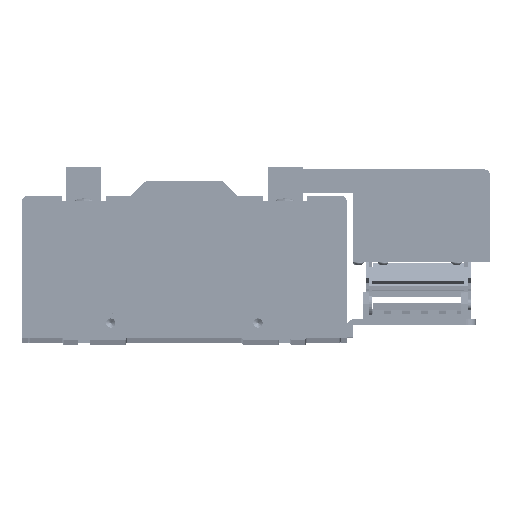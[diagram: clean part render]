
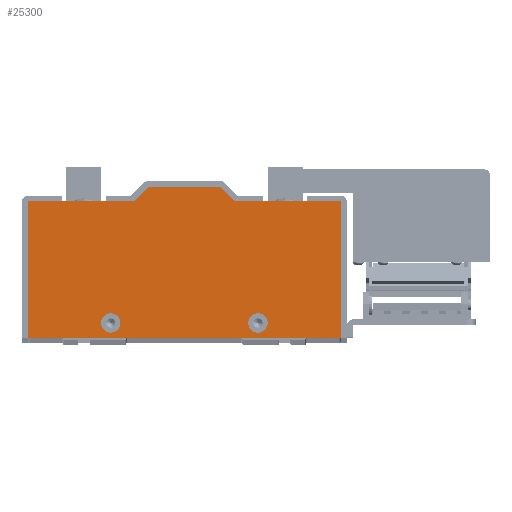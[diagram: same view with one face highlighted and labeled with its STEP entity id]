
A CAD part, top view. The second image highlights one B-rep face of the part: STEP entity #25300.
In plain terms, the highlighted planar face has unit normal (0, 0, 1).
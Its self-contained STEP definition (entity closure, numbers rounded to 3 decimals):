
#15987 = EDGE_CURVE ( 'NONE', #54596, #16159, #90911, .T. ) ;
#16082 = VERTEX_POINT ( 'NONE', #91301 ) ;
#16159 = VERTEX_POINT ( 'NONE', #91566 ) ;
#16417 = EDGE_CURVE ( 'NONE', #18543, #16082, #92491, .T. ) ;
#17618 = EDGE_CURVE ( 'NONE', #16159, #18543, #95688, .T. ) ;
#18543 = VERTEX_POINT ( 'NONE', #97898 ) ;
#19229 = VERTEX_POINT ( 'NONE', #99140 ) ;
#19261 = EDGE_CURVE ( 'NONE', #16082, #19229, #99220, .T. ) ;
#20837 = EDGE_CURVE ( 'NONE', #19229, #53826, #103105, .T. ) ;
#23149 = ORIENTED_EDGE ( 'NONE', *, *, #51070, .F. ) ;
#23201 = EDGE_LOOP ( 'NONE', ( #23259, #26092, #26017, #26116, #26002, #26042, #26133, #26138 ) ) ;
#23259 = ORIENTED_EDGE ( 'NONE', *, *, #53821, .T. ) ;
#23973 = ORIENTED_EDGE ( 'NONE', *, *, #23974, .F. ) ;
#23974 = EDGE_CURVE ( 'NONE', #51066, #52784, #108271, .T. ) ;
#24049 = EDGE_LOOP ( 'NONE', ( #23973, #23149 ) ) ;
#24626 = ORIENTED_EDGE ( 'NONE', *, *, #24702, .F. ) ;
#24702 = EDGE_CURVE ( 'NONE', #27278, #48706, #108516, .T. ) ;
#24726 = ORIENTED_EDGE ( 'NONE', *, *, #28069, .F. ) ;
#25230 = EDGE_LOOP ( 'NONE', ( #24626, #24726 ) ) ;
#25300 = ADVANCED_FACE ( 'NONE', ( #108956, #108947, #108945 ), #108943, .T. ) ;
#26002 = ORIENTED_EDGE ( 'NONE', *, *, #17618, .T. ) ;
#26017 = ORIENTED_EDGE ( 'NONE', *, *, #54992, .T. ) ;
#26042 = ORIENTED_EDGE ( 'NONE', *, *, #16417, .T. ) ;
#26092 = ORIENTED_EDGE ( 'NONE', *, *, #54718, .T. ) ;
#26116 = ORIENTED_EDGE ( 'NONE', *, *, #15987, .T. ) ;
#26133 = ORIENTED_EDGE ( 'NONE', *, *, #19261, .T. ) ;
#26138 = ORIENTED_EDGE ( 'NONE', *, *, #20837, .T. ) ;
#27278 = VERTEX_POINT ( 'NONE', #109838 ) ;
#28069 = EDGE_CURVE ( 'NONE', #48706, #27278, #110176, .T. ) ;
#48706 = VERTEX_POINT ( 'NONE', #66759 ) ;
#51066 = VERTEX_POINT ( 'NONE', #68516 ) ;
#51070 = EDGE_CURVE ( 'NONE', #52784, #51066, #68511, .T. ) ;
#52784 = VERTEX_POINT ( 'NONE', #69201 ) ;
#53821 = EDGE_CURVE ( 'NONE', #53826, #53864, #69897, .T. ) ;
#53826 = VERTEX_POINT ( 'NONE', #69887 ) ;
#53864 = VERTEX_POINT ( 'NONE', #69971 ) ;
#54596 = VERTEX_POINT ( 'NONE', #70401 ) ;
#54718 = EDGE_CURVE ( 'NONE', #53864, #54733, #70655, .T. ) ;
#54733 = VERTEX_POINT ( 'NONE', #70687 ) ;
#54992 = EDGE_CURVE ( 'NONE', #54733, #54596, #71195, .T. ) ;
#66759 = CARTESIAN_POINT ( 'NONE',  ( -45.25, -29., 9.525 ) ) ;
#68506 = DIRECTION ( 'NONE',  ( 1., 0., 0. ) ) ;
#68507 = DIRECTION ( 'NONE',  ( 0., 0., 1. ) ) ;
#68509 = CARTESIAN_POINT ( 'NONE',  ( 40., -29., 9.525 ) ) ;
#68510 = AXIS2_PLACEMENT_3D ( 'NONE', #68509, #68507, #68506 ) ;
#68511 = CIRCLE ( 'NONE', #68510, 5.25 ) ;
#68516 = CARTESIAN_POINT ( 'NONE',  ( 45.25, -29., 9.525 ) ) ;
#69201 = CARTESIAN_POINT ( 'NONE',  ( 34.75, -29., 9.525 ) ) ;
#69887 = CARTESIAN_POINT ( 'NONE',  ( -85., 37., 9.525 ) ) ;
#69894 = DIRECTION ( 'NONE',  ( 0., -1., 0. ) ) ;
#69895 = VECTOR ( 'NONE', #69894, 1000. ) ;
#69896 = CARTESIAN_POINT ( 'NONE',  ( -85., 37., 9.525 ) ) ;
#69897 = LINE ( 'NONE', #69896, #69895 ) ;
#69971 = CARTESIAN_POINT ( 'NONE',  ( -85., -37., 9.525 ) ) ;
#70401 = CARTESIAN_POINT ( 'NONE',  ( 85., 37., 9.525 ) ) ;
#70651 = DIRECTION ( 'NONE',  ( 1., 0., 0. ) ) ;
#70652 = VECTOR ( 'NONE', #70651, 1000. ) ;
#70653 = CARTESIAN_POINT ( 'NONE',  ( -85., -37., 9.525 ) ) ;
#70655 = LINE ( 'NONE', #70653, #70652 ) ;
#70687 = CARTESIAN_POINT ( 'NONE',  ( 85., -37., 9.525 ) ) ;
#71191 = DIRECTION ( 'NONE',  ( 0., 1., 0. ) ) ;
#71192 = VECTOR ( 'NONE', #71191, 1000. ) ;
#71194 = CARTESIAN_POINT ( 'NONE',  ( 85., 37., 9.525 ) ) ;
#71195 = LINE ( 'NONE', #71194, #71192 ) ;
#90908 = DIRECTION ( 'NONE',  ( -1., 0., 0. ) ) ;
#90909 = VECTOR ( 'NONE', #90908, 1000. ) ;
#90910 = CARTESIAN_POINT ( 'NONE',  ( 27.5, 37., 9.525 ) ) ;
#90911 = LINE ( 'NONE', #90910, #90909 ) ;
#91301 = CARTESIAN_POINT ( 'NONE',  ( -19.5, 45., 9.525 ) ) ;
#91566 = CARTESIAN_POINT ( 'NONE',  ( 27.5, 37., 9.525 ) ) ;
#92486 = DIRECTION ( 'NONE',  ( -1., 0., 0. ) ) ;
#92488 = VECTOR ( 'NONE', #92486, 1000. ) ;
#92490 = CARTESIAN_POINT ( 'NONE',  ( -19.5, 45., 9.525 ) ) ;
#92491 = LINE ( 'NONE', #92490, #92488 ) ;
#95683 = DIRECTION ( 'NONE',  ( -0.707, 0.707, 0. ) ) ;
#95685 = VECTOR ( 'NONE', #95683, 1000. ) ;
#95687 = CARTESIAN_POINT ( 'NONE',  ( 19.5, 45., 9.525 ) ) ;
#95688 = LINE ( 'NONE', #95687, #95685 ) ;
#97898 = CARTESIAN_POINT ( 'NONE',  ( 19.5, 45., 9.525 ) ) ;
#99140 = CARTESIAN_POINT ( 'NONE',  ( -27.5, 37., 9.525 ) ) ;
#99216 = DIRECTION ( 'NONE',  ( -0.707, -0.707, 0. ) ) ;
#99218 = VECTOR ( 'NONE', #99216, 1000. ) ;
#99219 = CARTESIAN_POINT ( 'NONE',  ( -27.5, 37., 9.525 ) ) ;
#99220 = LINE ( 'NONE', #99219, #99218 ) ;
#103101 = DIRECTION ( 'NONE',  ( -1., 0., 0. ) ) ;
#103102 = VECTOR ( 'NONE', #103101, 1000. ) ;
#103104 = CARTESIAN_POINT ( 'NONE',  ( -85., 37., 9.525 ) ) ;
#103105 = LINE ( 'NONE', #103104, #103102 ) ;
#108263 = DIRECTION ( 'NONE',  ( 1., 0., 0. ) ) ;
#108265 = DIRECTION ( 'NONE',  ( 0., 0., 1. ) ) ;
#108267 = CARTESIAN_POINT ( 'NONE',  ( 40., -29., 9.525 ) ) ;
#108269 = AXIS2_PLACEMENT_3D ( 'NONE', #108267, #108265, #108263 ) ;
#108271 = CIRCLE ( 'NONE', #108269, 5.25 ) ;
#108512 = DIRECTION ( 'NONE',  ( 1., 0., 0. ) ) ;
#108513 = DIRECTION ( 'NONE',  ( 0., 0., 1. ) ) ;
#108514 = CARTESIAN_POINT ( 'NONE',  ( -40., -29., 9.525 ) ) ;
#108515 = AXIS2_PLACEMENT_3D ( 'NONE', #108514, #108513, #108512 ) ;
#108516 = CIRCLE ( 'NONE', #108515, 5.25 ) ;
#108937 = DIRECTION ( 'NONE',  ( 1., 0., 0. ) ) ;
#108939 = DIRECTION ( 'NONE',  ( 0., 0., 1. ) ) ;
#108940 = CARTESIAN_POINT ( 'NONE',  ( -85., 37., 9.525 ) ) ;
#108941 = AXIS2_PLACEMENT_3D ( 'NONE', #108940, #108939, #108937 ) ;
#108943 = PLANE ( 'NONE',  #108941 ) ;
#108945 = FACE_OUTER_BOUND ( 'NONE', #23201, .T. ) ;
#108947 = FACE_BOUND ( 'NONE', #24049, .T. ) ;
#108956 = FACE_BOUND ( 'NONE', #25230, .T. ) ;
#109838 = CARTESIAN_POINT ( 'NONE',  ( -34.75, -29., 9.525 ) ) ;
#110171 = DIRECTION ( 'NONE',  ( 1., 0., 0. ) ) ;
#110173 = DIRECTION ( 'NONE',  ( 0., 0., 1. ) ) ;
#110174 = CARTESIAN_POINT ( 'NONE',  ( -40., -29., 9.525 ) ) ;
#110175 = AXIS2_PLACEMENT_3D ( 'NONE', #110174, #110173, #110171 ) ;
#110176 = CIRCLE ( 'NONE', #110175, 5.25 ) ;
